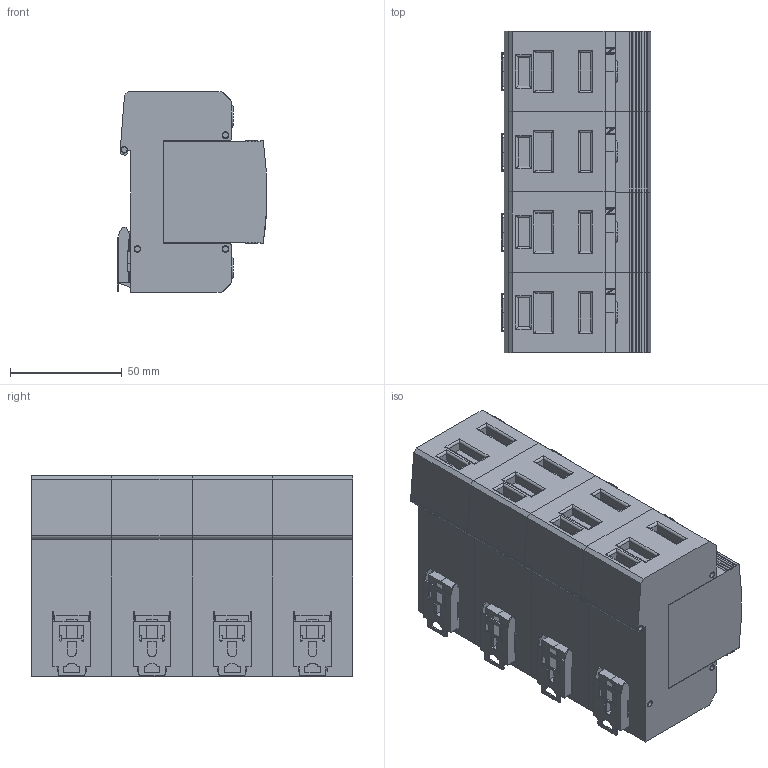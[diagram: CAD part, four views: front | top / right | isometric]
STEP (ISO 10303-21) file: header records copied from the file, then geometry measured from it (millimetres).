
FILE_DESCRIPTION(('TFLEX Exchange Step'),'2;1');
FILE_NAME('X2\041004400442\X0\.114_002.stp', '2022-07-15T15:49:53+03:00',('Pavel Oborin'),('Unknown organisation'),'TFLEX Exchange 2019.2','T-FLEX CAD','Unknown authorisation');
FILE_SCHEMA( ('AUTOMOTIVE_DESIGN { 1 0 10303 214 1 1 1 1 }') );
Length unit declared in the file: millimetre
Products named in the file (12): 0; Буква PE; Планка; ВНЕШНИЙ МОДУЛЬ 36; Корпус 36; Без букв; Буква L3; Буква L2; Буква L1; буква N:8; буква N:7; Арт.114_002
Assembly tree (20 placements, depth 3):
  Арт.114_002
    0
    Буква PE
    Без букв  x4
      Планка
      ВНЕШНИЙ МОДУЛЬ 36
      Корпус 36
    Буква L3
    Буква L2
    Буква L1
    буква N:8  x4
    буква N:7  x4
Bounding box: 66.98 x 144.1 x 90.09 mm (x, y, z)
Volume: 690950.4 mm3; surface area: 139662.5 mm2
Topology: 120 solids, 120 shells, 1990 faces, 4887 edges, 3173 vertices
Faces by surface type: plane 1236, cylinder 480, bspline 258, torus 16
Entity records: 36638 total; most frequent: CARTESIAN_POINT 19635, ORIENTED_EDGE 3600, DIRECTION 3068, EDGE_CURVE 1800, VECTOR 1220, LINE 1220, VERTEX_POINT 1151, AXIS2_PLACEMENT_3D 924
